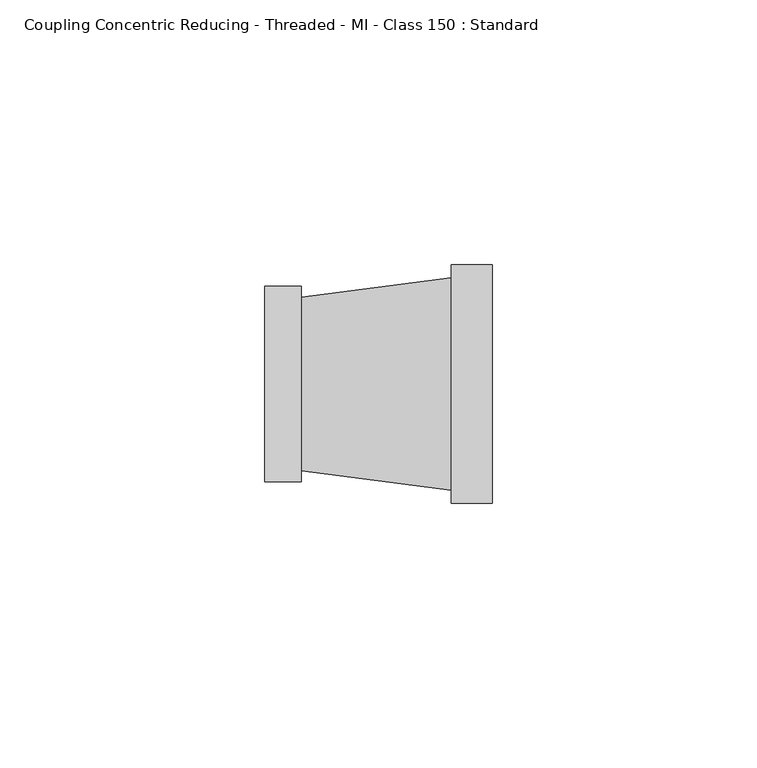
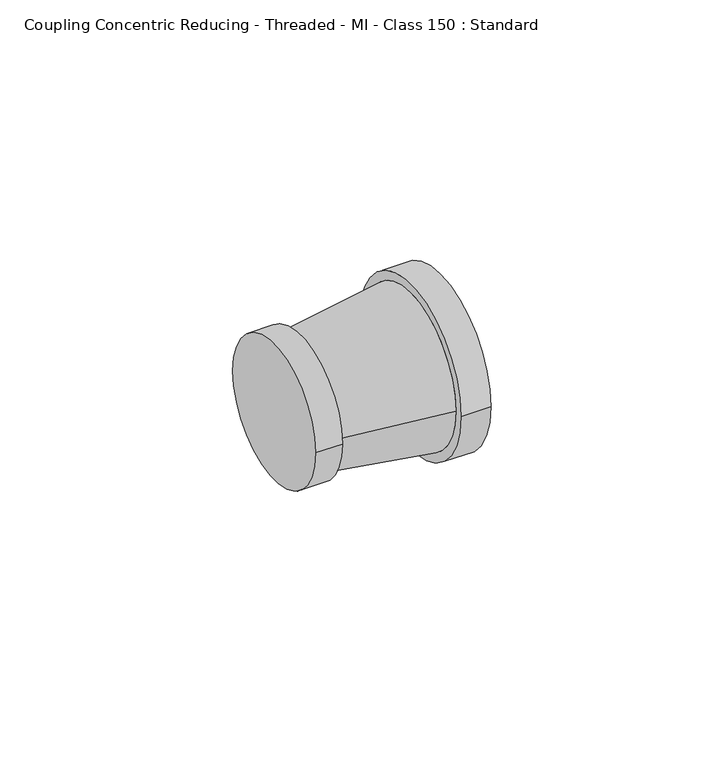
"""IFC4 building model written with IfcOpenShell, lengths in millimetres: pipe fitting geometry, Coupling Concentric Reducing - Threaded - MI - Class 150 : Standard."""

from ifc_helpers import new_model, si_unit, frame, origin, place, context, project, spatial, polyline, circle_curve, source, transform, mapped, element, save
from ifc_brep_helpers import plane_surface, cylinder_surface, revolved_surface, advanced_brep


def coupling_concentric_reducing_threaded_mi_class_150_standard_68d17141(model_context):
    return source(origin(), model_context, "Body", "AdvancedBrep", [
        advanced_brep(
        [(6.9, 16.4, 0.0), (35.2, 20.1, 0.0), (35.2, -20.1, 0.0), (6.9, -16.4, 0.0), (42.9, -22.5, 0.0), (42.9, 22.5, 0.0), (35.2, -22.5, 0.0), (35.2, 22.5, 0.0), (6.9, -18.5, 0.0), (6.9, 18.5, 0.0), (0.0, -18.5, 0.0), (0.0, 18.5, 0.0)],
        [
            (0, 1),
            (1, 2, circle_curve(frame((35.2, 0.0, 0.0), z_axis=(-1.0, 0.0, 0.0), x_axis=(0.0, -1.0, 0.0)), 20.1)),
            (2, 3),
            (3, 0, circle_curve(frame((6.9, 0.0, 0.0), z_axis=(1.0, 0.0, 0.0), x_axis=(0.0, -1.0, 0.0)), 16.4)),
            (0, 3, circle_curve(frame((6.9, 0.0, 0.0), z_axis=(1.0, 0.0, 0.0), x_axis=(0.0, 1.0, 0.0)), 16.4)),
            (2, 1, circle_curve(frame((35.2, 0.0, 0.0), z_axis=(-1.0, 0.0, 0.0), x_axis=(0.0, 1.0, 0.0)), 20.1)),
            (4, 5, circle_curve(frame((42.9, 0.0, 0.0), z_axis=(1.0, 0.0, 0.0), x_axis=(0.0, 1.0, 0.0)), 22.5)),
            (5, 4, circle_curve(frame((42.9, 0.0, 0.0), z_axis=(1.0, 0.0, 0.0), x_axis=(0.0, 1.0, 0.0)), 22.5)),
            (6, 7, circle_curve(frame((35.2, 0.0, 0.0), z_axis=(-1.0, 0.0, 0.0), x_axis=(0.0, 1.0, 0.0)), 22.5)),
            (7, 6, circle_curve(frame((35.2, 0.0, 0.0), z_axis=(-1.0, 0.0, 0.0), x_axis=(0.0, 1.0, 0.0)), 22.5)),
            (4, 6),
            (7, 5),
            (8, 9, circle_curve(frame((6.9, 0.0, 0.0), z_axis=(1.0, 0.0, 0.0), x_axis=(0.0, 1.0, 0.0)), 18.5)),
            (9, 8, circle_curve(frame((6.9, 0.0, 0.0), z_axis=(1.0, 0.0, 0.0), x_axis=(0.0, 1.0, 0.0)), 18.5)),
            (10, 11, circle_curve(frame((0.0, 0.0, 0.0), z_axis=(-1.0, 0.0, 0.0), x_axis=(0.0, 1.0, 0.0)), 18.5)),
            (11, 10, circle_curve(frame((0.0, 0.0, 0.0), z_axis=(-1.0, 0.0, 0.0), x_axis=(0.0, 1.0, 0.0)), 18.5)),
            (8, 10),
            (11, 9),
        ],
        [
            revolved_surface(polyline([(6.900000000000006, 16.39999999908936, 0.0), (35.20000000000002, 20.1, 0.0)]), (-118.5378378, 0.0, 0.0), (1.0, 0.0, 0.0)),
            plane_surface(frame((42.9, 22.5, 0.0), z_axis=(1.0, 0.0, 0.0), x_axis=(0.0, 0.0, 1.0))),
            plane_surface(frame((35.2, 22.5, 0.0), z_axis=(-1.0, 0.0, 0.0), x_axis=(0.0, 0.0, -1.0))),
            cylinder_surface(frame((35.2, 0.0, 0.0), z_axis=(1.0, 0.0, 0.0), x_axis=(0.0, 1.0, 0.0)), 22.5),
            plane_surface(frame((6.9, 18.5, 0.0), z_axis=(1.0, 0.0, 0.0), x_axis=(0.0, 0.0, 1.0))),
            plane_surface(frame((0.0, 18.5, 0.0), z_axis=(-1.0, 0.0, 0.0), x_axis=(0.0, 0.0, -1.0))),
            cylinder_surface(frame((0.0, 0.0, 0.0), z_axis=(1.0, 0.0, 0.0), x_axis=(0.0, 1.0, 0.0)), 18.5),
        ],
        [
            (0, [[1, 2, 3, 4]]),
            (0, [[-1, 5, -3, 6]]),
            (1, [[7, 8]]),
            (2, [[9, 10], [-2, -6]]),
            (3, [[-7, 11, -10, 12]]),
            (3, [[-8, -12, -9, -11]]),
            (4, [[13, 14], [-4, -5]]),
            (5, [[15, 16]]),
            (6, [[-13, 17, -16, 18]]),
            (6, [[-14, -18, -15, -17]]),
        ],
    ),
    ])


if __name__ == "__main__":
    model = new_model("IFC4")
    model_context = context("Model", 3, world=origin())
    ifc_project = project(units=[si_unit("LENGTHUNIT", "METRE", prefix="MILLI")], contexts=[model_context])
    site = spatial("IfcSite", under=ifc_project)
    building = spatial("IfcBuilding", under=site)
    placement = place(None, origin())
    coupling_concentric_reducing_threaded_mi_class_150_standard_shape = coupling_concentric_reducing_threaded_mi_class_150_standard_68d17141(model_context)
    element("IfcPipeFitting", 1, ObjectType="Coupling Concentric Reducing - Threaded - MI - Class 150 : Standard", at=placement, inside=building, context=model_context, shape_type="MappedRepresentation", body=[
        mapped(coupling_concentric_reducing_threaded_mi_class_150_standard_shape, transform((0.0, 0.0, 0.0), x_axis=(1.0, 0.0, 0.0), y_axis=(0.0, 1.0, 0.0), z_axis=(0.0, 0.0, 1.0))),
    ])
    save(model, "model.ifc")
